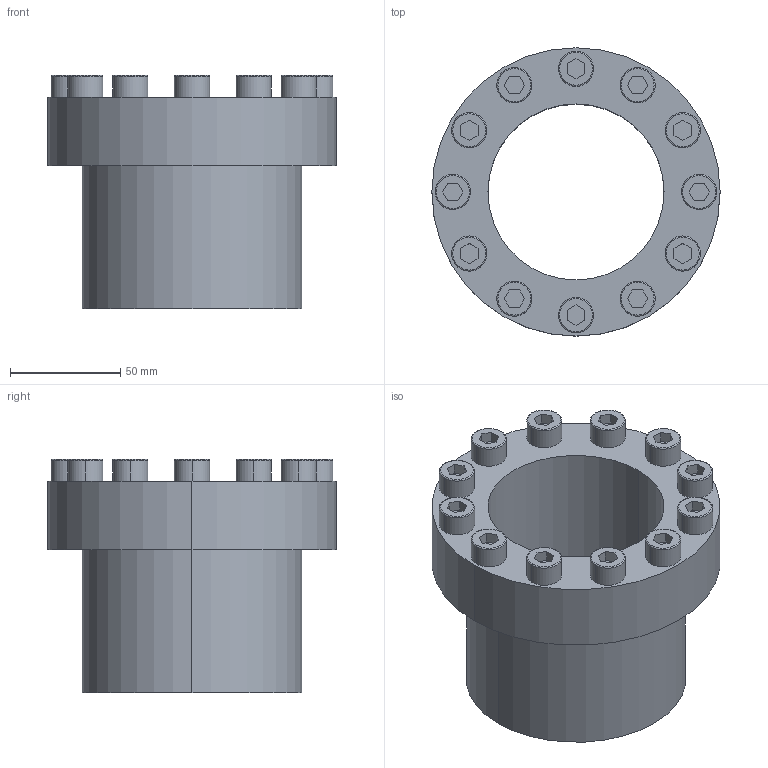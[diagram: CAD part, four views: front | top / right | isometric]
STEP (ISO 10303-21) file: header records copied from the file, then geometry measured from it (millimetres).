
FILE_DESCRIPTION (( 'STEP AP203' ), '1' );
FILE_NAME ('PL-C 80-100.STEP', '2021-10-22T08:46:41', ( '' ), ( '' ), 'SwSTEP 2.0', 'SolidWorks 2018', '' );
FILE_SCHEMA (( 'CONFIG_CONTROL_DESIGN' ));
Length unit declared in the file: millimetre
Products named in the file (1): PL-C 80-100
Bounding box: 131 x 131 x 106 mm (x, y, z)
Volume: 464514.9 mm3; surface area: 81732.1 mm2
Topology: 1 solids, 1 shells, 153 faces, 354 edges, 228 vertices
Faces by surface type: plane 99, cylinder 30, torus 24
Entity records: 4405 total; most frequent: DIRECTION 770, CARTESIAN_POINT 736, ORIENTED_EDGE 708, EDGE_CURVE 354, AXIS2_PLACEMENT_3D 262, VECTOR 246, LINE 246, VERTEX_POINT 228
